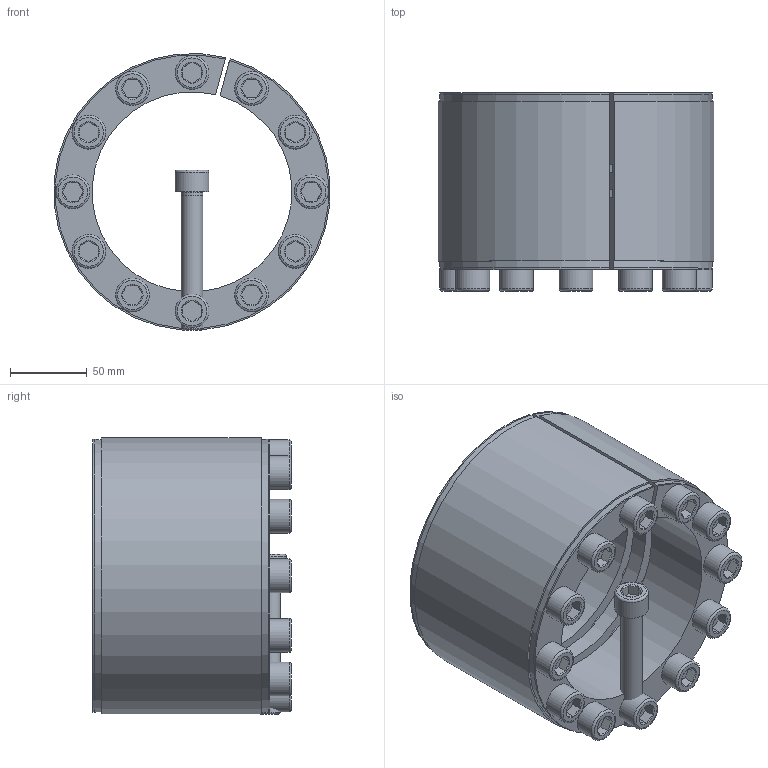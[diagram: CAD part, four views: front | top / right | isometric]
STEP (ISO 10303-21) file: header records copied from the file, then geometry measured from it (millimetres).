
FILE_DESCRIPTION( ( 'Unknown' ), '1' );
FILE_NAME( 'C:/Dokumente und Einstellungen/Sven/Desktop/homepage/cad - homepage/KBS11/KBS 11 - 130 x 180.stp', 'Unknown', ( 'Unknown' ), ( 'Unknown' ), 'XStep 1.0', 'Unknown', ' ' );
FILE_SCHEMA( ( 'automotive_design' ) );
Length unit declared in the file: millimetre
Products named in the file (3): Assem1; KBS 11 - 130 x 180; ISO EN DIN 4762 M14x90
Bounding box: 179.45 x 129 x 179.77 mm (x, y, z)
Volume: 2407740.3 mm3; surface area: 528139.2 mm2
Topology: 15 solids, 15 shells, 437 faces, 929 edges, 574 vertices
Faces by surface type: plane 176, cylinder 136, cone 99, torus 26
Full cylindrical faces by diameter (mm): 12 x13, 14 x98, 22 x13
Entity records: 3014 total; most frequent: CARTESIAN_POINT 469, DIRECTION 444, ORIENTED_EDGE 322, AXIS2_PLACEMENT_3D 202, EDGE_LOOP 200, EDGE_CURVE 161, VERTEX_POINT 131, FACE_OUTER_BOUND 123
